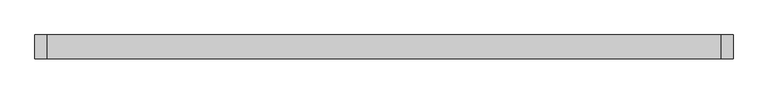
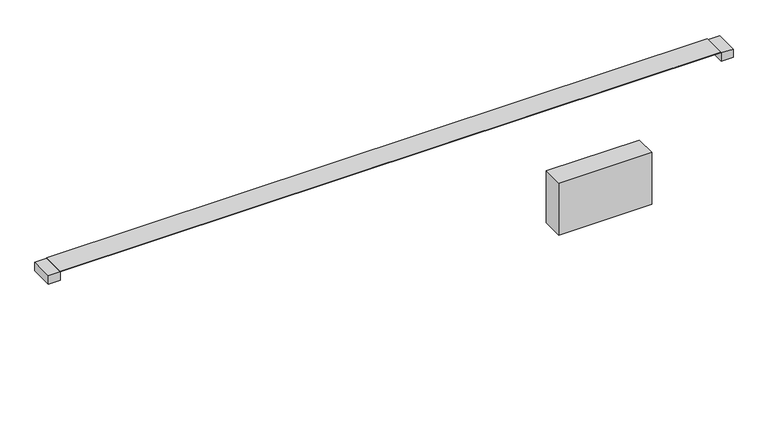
"""IFC4 building model written with IfcOpenShell, lengths in millimetres: light fixture geometry, Fabbian.Pivot F39 (F39 A01A 01,F39 A01A 21,F39 A01A 76,F39 A02A 01,F39 A02A 21,F39 A02A 76) : F39 A01A 01."""

from ifc_helpers import new_model, si_unit, frame, origin, place, context, project, spatial, polyline, outline, extrude, source, transform, mapped, element, save


def light_fixture_e99aa70f(model_context):
    return source(origin(), model_context, "Body", "SweptSolid", [
        extrude(outline(polyline([(619.1350388, -24.9666442), (399.1348055, -24.9666442), (399.1348055, 25.0334567), (619.1350388, 25.0334567), (619.1350388, -24.9666442)])), frame((0.0, 0.0, -142.875), z_axis=(0.0, 0.0, 1.0), x_axis=(1.0, 0.0, 0.0)), (0.0, 0.0, 1.0), 130.175),
        extrude(outline(polyline([(0.4107254, 159.893756), (0.4107254, 160.681594), (-0.4107259, 160.681594), (-0.4107259, 159.893756), (-25.5497693, 181.0787506), (26.3879175, 181.0787506), (0.4107254, 159.893756)])), frame((-782.3132834, 0.0, 0.0), z_axis=(1.0, 0.0, 0.0), x_axis=(0.0, 1.0, 0.0)), (0.0, 0.0, 1.0), 1564.6265668),
        extrude(outline(polyline([(-782.3132834, -27.7285043), (-810.5140956, -27.7285043), (-810.5140956, 27.7953166), (-782.3132834, 27.7953166), (-782.3132834, -27.7285043)])), frame((0.0, 0.0, 159.6242394), z_axis=(0.0, 0.0, 1.0), x_axis=(1.0, 0.0, 0.0)), (0.0, 0.0, 1.0), 20.8761838),
        extrude(outline(polyline([(782.3132834, -27.7285042), (782.3132834, 27.7953167), (810.5140956, 27.7953167), (810.5140956, -27.7285042), (782.3132834, -27.7285042)])), frame((0.0, 0.0, 159.6242394), z_axis=(0.0, 0.0, 1.0), x_axis=(1.0, 0.0, 0.0)), (0.0, 0.0, 1.0), 20.8761838),
        extrude(outline(polyline([(0.0, 0.8214513), (1564.6265668, 0.8214513), (1564.6265668, 0.0), (0.0, 0.0), (0.0, 0.8214513)])), frame((-782.3132834, -0.4107259, 159.893756), z_axis=(-5.7155291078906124e-11, 0.0, 1.0), x_axis=(1.0, 0.0, 5.7155291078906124e-11)), (0.0, 0.0, 1.0), 0.787838),
        extrude(outline(polyline([(781.7488887, 27.7780006), (781.7488887, -27.7779986), (-782.3132834, -27.7779986), (-782.3132834, 27.7780006), (781.7488887, 27.7780006)])), frame((0.0, 0.0, 181.0787506), z_axis=(0.0, 0.0, 1.0), x_axis=(1.0, 0.0, 0.0)), (0.0, 0.0, 1.0), 1.1514277),
    ])


if __name__ == "__main__":
    model = new_model("IFC4")
    model_context = context("Model", 3, world=origin())
    ifc_project = project(units=[si_unit("LENGTHUNIT", "METRE", prefix="MILLI")], contexts=[model_context])
    site = spatial("IfcSite", under=ifc_project)
    building = spatial("IfcBuilding", under=site)
    placement = place(None, origin())
    light_fixture_shape = light_fixture_e99aa70f(model_context)
    element("IfcLightFixture", 1, ObjectType="Fabbian.Pivot F39 (F39 A01A 01,F39 A01A 21,F39 A01A 76,F39 A02A 01,F39 A02A 21,F39 A02A 76) : F39 A01A 01", at=placement, inside=building, context=model_context, shape_type="MappedRepresentation", body=[
        mapped(light_fixture_shape, transform((0.0, 0.0, 0.0), x_axis=(1.0, 0.0, 0.0), y_axis=(0.0, 1.0, 0.0), z_axis=(0.0, 0.0, 1.0))),
    ])
    save(model, "model.ifc")
